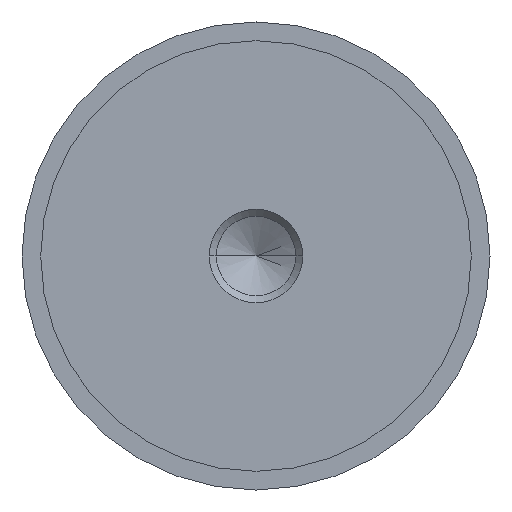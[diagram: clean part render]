
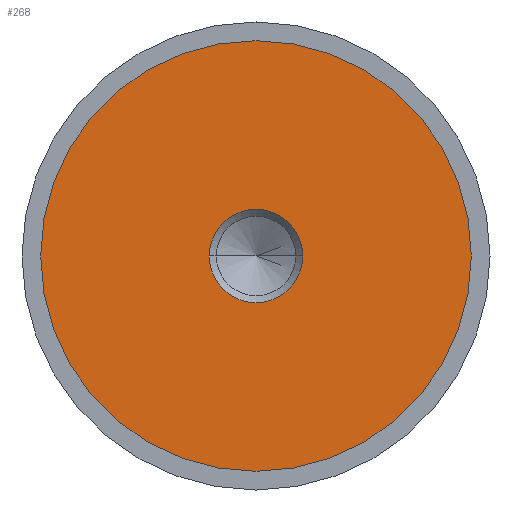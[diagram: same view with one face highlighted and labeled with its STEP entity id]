
A CAD part, left-side view. The second image highlights one B-rep face of the part: STEP entity #268.
In plain terms, the highlighted planar face has unit normal (-1, 0, 0).
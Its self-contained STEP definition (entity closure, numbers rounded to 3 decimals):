
#32 = PLANE ( 'NONE',  #765 ) ;
#44 = DIRECTION ( 'NONE',  ( 1., 0., 0. ) ) ;
#47 = DIRECTION ( 'NONE',  ( 0., 0., 1. ) ) ;
#95 = CARTESIAN_POINT ( 'NONE',  ( -19.99, -4.99, 0. ) ) ;
#98 = VERTEX_POINT ( 'NONE', #750 ) ;
#109 = CARTESIAN_POINT ( 'NONE',  ( -19.99, 0., 0. ) ) ;
#117 = CIRCLE ( 'NONE', #405, 4.99 ) ;
#131 = DIRECTION ( 'NONE',  ( -1., 0., 0. ) ) ;
#138 = DIRECTION ( 'NONE',  ( 0., 0., 1. ) ) ;
#198 = CARTESIAN_POINT ( 'NONE',  ( -19.99, 0., 0. ) ) ;
#201 = DIRECTION ( 'NONE',  ( 1., 0., 0. ) ) ;
#262 = ORIENTED_EDGE ( 'NONE', *, *, #369, .T. ) ;
#268 = ADVANCED_FACE ( 'NONE', ( #294, #290 ), #32, .F. ) ;
#284 = DIRECTION ( 'NONE',  ( 0., 0., -1. ) ) ;
#285 = AXIS2_PLACEMENT_3D ( 'NONE', #450, #131, #138 ) ;
#290 = FACE_OUTER_BOUND ( 'NONE', #523, .T. ) ;
#294 = FACE_BOUND ( 'NONE', #527, .T. ) ;
#316 = ORIENTED_EDGE ( 'NONE', *, *, #543, .T. ) ;
#337 = CIRCLE ( 'NONE', #404, 23. ) ;
#361 = DIRECTION ( 'NONE',  ( -1., 0., 0. ) ) ;
#369 = EDGE_CURVE ( 'NONE', #98, #764, #337, .T. ) ;
#379 = AXIS2_PLACEMENT_3D ( 'NONE', #734, #437, #552 ) ;
#389 = ORIENTED_EDGE ( 'NONE', *, *, #524, .T. ) ;
#404 = AXIS2_PLACEMENT_3D ( 'NONE', #109, #361, #47 ) ;
#405 = AXIS2_PLACEMENT_3D ( 'NONE', #198, #201, #688 ) ;
#431 = CIRCLE ( 'NONE', #285, 23. ) ;
#437 = DIRECTION ( 'NONE',  ( 1., 0., 0. ) ) ;
#450 = CARTESIAN_POINT ( 'NONE',  ( -19.99, 0., 0. ) ) ;
#507 = CARTESIAN_POINT ( 'NONE',  ( -19.99, 0., 23. ) ) ;
#511 = ORIENTED_EDGE ( 'NONE', *, *, #638, .T. ) ;
#523 = EDGE_LOOP ( 'NONE', ( #316, #262 ) ) ;
#524 = EDGE_CURVE ( 'NONE', #624, #686, #117, .T. ) ;
#527 = EDGE_LOOP ( 'NONE', ( #389, #511 ) ) ;
#543 = EDGE_CURVE ( 'NONE', #764, #98, #431, .T. ) ;
#552 = DIRECTION ( 'NONE',  ( 0., 0., -1. ) ) ;
#624 = VERTEX_POINT ( 'NONE', #95 ) ;
#638 = EDGE_CURVE ( 'NONE', #686, #624, #767, .T. ) ;
#686 = VERTEX_POINT ( 'NONE', #730 ) ;
#688 = DIRECTION ( 'NONE',  ( 0., 0., -1. ) ) ;
#707 = CARTESIAN_POINT ( 'NONE',  ( -19.99, 23., 0. ) ) ;
#730 = CARTESIAN_POINT ( 'NONE',  ( -19.99, 4.99, 0. ) ) ;
#734 = CARTESIAN_POINT ( 'NONE',  ( -19.99, 0., 0. ) ) ;
#750 = CARTESIAN_POINT ( 'NONE',  ( -19.99, 0., -23. ) ) ;
#764 = VERTEX_POINT ( 'NONE', #507 ) ;
#765 = AXIS2_PLACEMENT_3D ( 'NONE', #707, #44, #284 ) ;
#767 = CIRCLE ( 'NONE', #379, 4.99 ) ;
